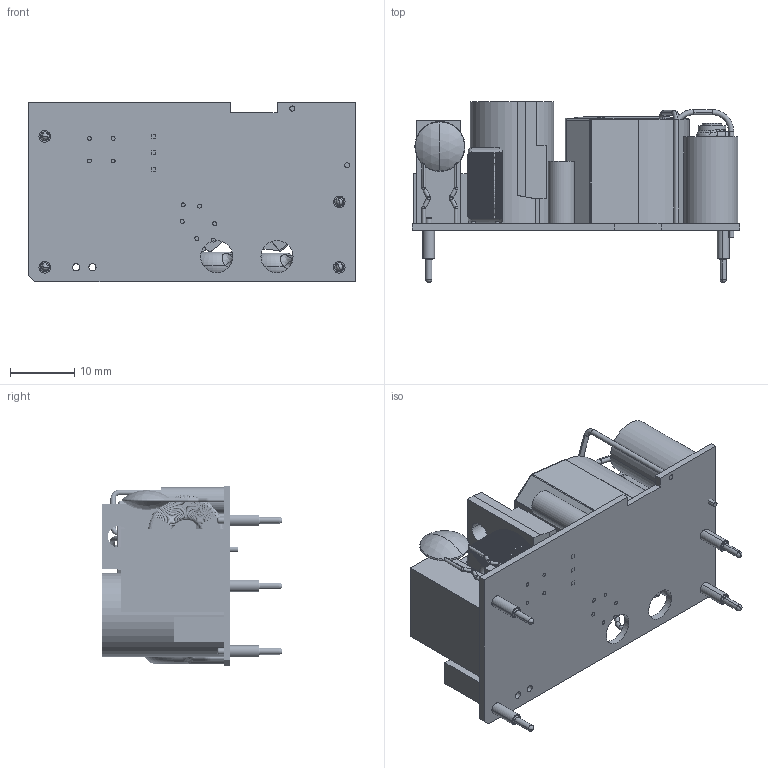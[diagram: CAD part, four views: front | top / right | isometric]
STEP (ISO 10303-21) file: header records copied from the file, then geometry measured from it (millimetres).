
FILE_DESCRIPTION (( 'STEP AP214' ), '1' );
FILE_NAME ('CFM25SXXX¦¨«~¹Ï(01)-1071214.STEP', '2019-06-10T05:53:18', ( '' ), ( '' ), 'SwSTEP 2.0', 'SolidWorks 2017', '' );
FILE_SCHEMA (( 'AUTOMOTIVE_DESIGN' ));
Length unit declared in the file: millimetre
Products named in the file (12): C陶瓷電容d8-1051118; (B)D4-1050901; CFM25變壓器(參考); CFM25SXXX成品圖(01)-1071214; CFM25 L5; CFM25 CORE; CFM25SXXX PCB-1051115; CFM25 CY4 105,09,01; CFM25SXXX PCB-1051208; CFM25ｶ鷄IN; D4-1050901; 電晶體10mm
Assembly tree (15 placements, depth 2):
  CFM25SXXX成品圖(01)-1071214
    CFM25SXXX PCB-1051115
    電晶體10mm
    CFM25 CORE
    D4-1050901
    C陶瓷電容d8-1051118
    CFM25變壓器(參考)
    CFM25 CY4 105,09,01  x2
    (B)D4-1050901
    CFM25 L5
    CFM25ｶ鷄IN  x4
    CFM25SXXX PCB-1051208
Bounding box: 50.8 x 28.1 x 27.94 mm (x, y, z)
Volume: 14304.8 mm3; surface area: 14995.1 mm2
Topology: 19 solids, 19 shells, 2807 faces, 7674 edges, 4672 vertices
Faces by surface type: bspline 1254, cylinder 1244, plane 235, torus 62, sphere 12
Entity records: 119005 total; most frequent: CARTESIAN_POINT 38624, ORIENTED_EDGE 15036, DIRECTION 14217, EDGE_CURVE 7518, AXIS2_PLACEMENT_3D 6251, CIRCLE 4745, VERTEX_POINT 4584, EDGE_LOOP 2798
